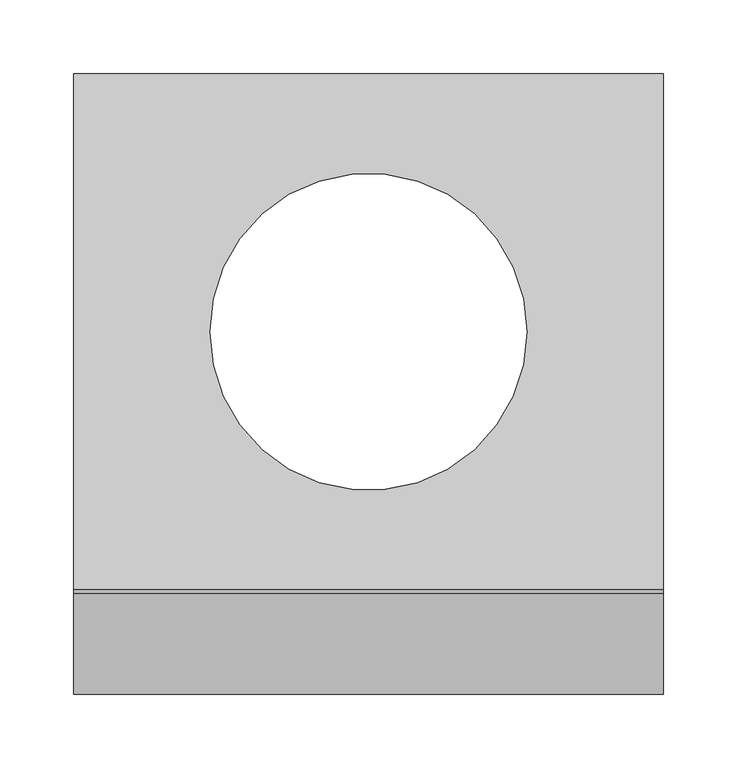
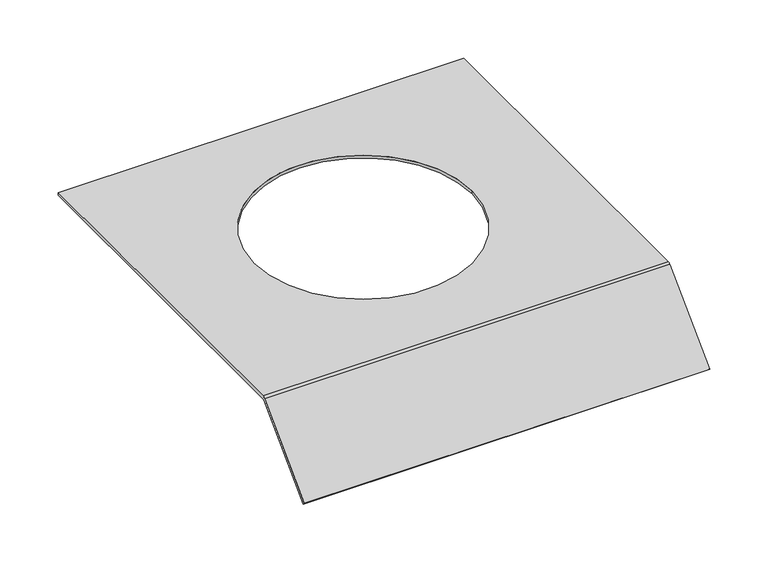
"""IFC4 building model written with IfcOpenShell, lengths in millimetres: proxy geometry, Electrical_Installation_Hager_Covers-With-Installation-Opening-R06 : Electrical_Installation_Hager_Covers-With-Installation-Opening-R06."""

from ifc_helpers import new_model, si_unit, frame, origin, place, context, project, spatial, polyline, circle_curve, source, transform, mapped, element, save
from ifc_brep_helpers import plane_surface, cylinder_surface, revolved_surface, advanced_brep


def electrical_fixtures_30c5370d(model_context):
    return source(origin(), model_context, "Body", "AdvancedBrep", [
        advanced_brep(
        [(0.0, 175.0, 40.5), (0.0, 175.0, 37.5), (0.0, -174.8229541, 37.5), (0.0, -175.8322972, 37.0819164), (0.0, -243.712807, -30.7985934), (0.0, -245.8341273, -28.6772731), (0.0, -177.8206472, 39.336207), (0.0, -175.0110025, 40.5), (400.0, 175.0, 40.5), (400.0, -175.0110025, 40.5), (400.0, -177.8206472, 39.336207), (400.0, -245.8341273, -28.6772731), (400.0, -243.712807, -30.7985934), (400.0, -175.8322972, 37.0819164), (400.0, -174.8229541, 37.5), (400.0, 175.0, 37.5), (92.5, 0.0, 37.5), (307.5, 0.0, 37.5), (307.5, 0.0, 40.5), (92.5, 0.0, 40.5)],
        [
            (0, 1),
            (1, 2),
            (2, 3, circle_curve(frame((0.0, -174.8229541, 36.0725733), z_axis=(1.0, 0.0, 0.0), x_axis=(0.0, 1.0, 0.0)), 1.4274267)),
            (3, 4),
            (4, 5),
            (5, 6),
            (6, 7, circle_curve(frame((0.0, -175.0110025, 36.5265623), z_axis=(-1.0, 0.0, 0.0), x_axis=(0.0, 1.0, 0.0)), 3.9734377)),
            (7, 0),
            (8, 9),
            (9, 10, circle_curve(frame((400.0, -175.0110025, 36.5265623), z_axis=(1.0, 0.0, 0.0), x_axis=(0.0, 1.0, 0.0)), 3.9734377)),
            (10, 11),
            (11, 12),
            (12, 13),
            (13, 14, circle_curve(frame((400.0, -174.8229541, 36.0725733), z_axis=(-1.0, 0.0, 0.0), x_axis=(0.0, 1.0, 0.0)), 1.4274267)),
            (14, 15),
            (15, 8),
            (0, 8),
            (15, 1),
            (14, 2),
            (16, 17, circle_curve(frame((200.0, 0.0, 37.5), z_axis=(0.0, 0.0, 1.0), x_axis=(1.0, 0.0, 0.0)), 107.5)),
            (17, 16, circle_curve(frame((200.0, 0.0, 37.5), z_axis=(0.0, 0.0, 1.0), x_axis=(1.0, 0.0, 0.0)), 107.5)),
            (13, 3),
            (12, 4),
            (11, 5),
            (10, 6),
            (9, 7),
            (18, 19, circle_curve(frame((200.0, 0.0, 40.5), z_axis=(0.0, 0.0, -1.0), x_axis=(1.0, 0.0, 0.0)), 107.5)),
            (19, 18, circle_curve(frame((200.0, 0.0, 40.5), z_axis=(0.0, 0.0, -1.0), x_axis=(1.0, 0.0, 0.0)), 107.5)),
            (16, 19),
            (18, 17),
        ],
        [
            plane_surface(frame((0.0, 0.3269864, 15.0), z_axis=(-1.0, 0.0, 0.0), x_axis=(0.0, 0.0, 1.0))),
            plane_surface(frame((400.0, 0.3269864, 15.0), z_axis=(1.0, 0.0, 0.0), x_axis=(0.0, 0.0, 1.0))),
            plane_surface(frame((0.0, 175.0, 40.5), z_axis=(0.0, 1.0, 0.0), x_axis=(1.0, 0.0, 0.0))),
            plane_surface(frame((0.0, 175.0, 37.5), z_axis=(0.0, 0.0, -1.0), x_axis=(1.0, 0.0, 0.0))),
            revolved_surface(polyline([(400.0, -173.3955274, 36.0725733), (0.0, -173.3955274, 36.0725733)]), (0.0, -174.8229541, 36.0725733), (1.0, 0.0, 0.0)),
            plane_surface(frame((0.0, -175.8322972, 37.0819164), z_axis=(0.0, 0.7071067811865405, -0.7071067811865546), x_axis=(1.0, 0.0, 0.0))),
            plane_surface(frame((0.0, -243.712807, -30.7985934), z_axis=(0.0, -0.7071067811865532, -0.7071067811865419), x_axis=(1.0, 0.0, 0.0))),
            plane_surface(frame((0.0, -245.8341273, -28.6772731), z_axis=(0.0, -0.7071067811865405, 0.7071067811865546), x_axis=(1.0, 0.0, 0.0))),
            cylinder_surface(frame((0.0, -175.0110025, 36.5265623), z_axis=(-1.0, 0.0, 0.0), x_axis=(0.0, 1.0, 0.0)), 3.9734377),
            plane_surface(frame((0.0, -175.0110025, 40.5), z_axis=(0.0, 0.0, 1.0), x_axis=(1.0, 0.0, 0.0))),
            revolved_surface(polyline([(307.5, 0.0, 40.5), (307.5, 0.0, 37.5)]), (200.0, 0.0, 0.0), (0.0, 0.0, 1.0)),
        ],
        [
            (0, [[1, 2, 3, 4, 5, 6, 7, 8]]),
            (1, [[9, 10, 11, 12, 13, 14, 15, 16]]),
            (2, [[-1, 17, -16, 18]]),
            (3, [[-2, -18, -15, 19], [20, 21]]),
            (4, [[-3, -19, -14, 22]]),
            (5, [[-4, -22, -13, 23]]),
            (6, [[-5, -23, -12, 24]]),
            (7, [[-6, -24, -11, 25]]),
            (8, [[-7, -25, -10, 26]]),
            (9, [[-8, -26, -9, -17], [27, 28]]),
            (10, [[29, -27, 30, -20]]),
            (10, [[-29, -21, -30, -28]]),
        ],
    ),
    ])


if __name__ == "__main__":
    model = new_model("IFC4")
    model_context = context("Model", 3, world=origin())
    ifc_project = project(units=[si_unit("LENGTHUNIT", "METRE", prefix="MILLI")], contexts=[model_context])
    site = spatial("IfcSite", under=ifc_project)
    building = spatial("IfcBuilding", under=site)
    placement = place(None, origin())
    electrical_fixtures_shape = electrical_fixtures_30c5370d(model_context)
    element("IfcBuildingElementProxy", 1, Name="Electrical_Installation_Hager_Covers-With-Installation-Opening-R06 : Electrical_Installation_Hager_Covers-With-Installation-Opening-R06", ObjectType="Electrical_Installation_Hager_Covers-With-Installation-Opening-R06 : Electrical_Installation_Hager_Covers-With-Installation-Opening-R06", at=placement, inside=building, context=model_context, shape_type="MappedRepresentation", body=[
        mapped(electrical_fixtures_shape, transform((0.0, 0.0, 0.0), x_axis=(1.0, 0.0, 0.0), y_axis=(0.0, 1.0, 0.0), z_axis=(0.0, 0.0, 1.0))),
    ])
    save(model, "model.ifc")
